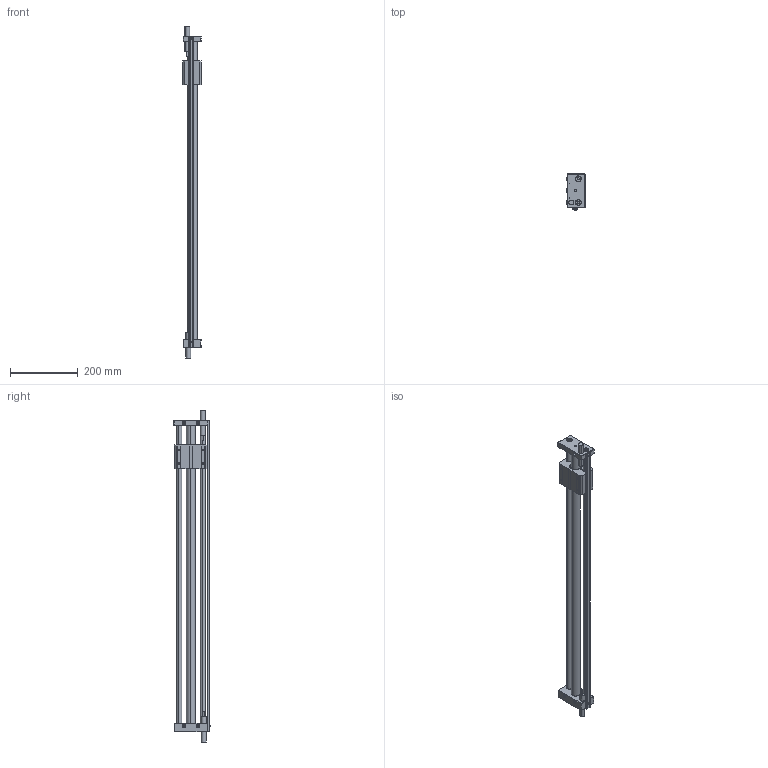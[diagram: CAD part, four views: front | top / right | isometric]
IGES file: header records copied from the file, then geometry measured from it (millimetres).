
Start section: SolidWorks IGES file using analytic representation for surfaces
Global section: file name: D:\Documents de SGA\Pieces 2D et 3D\GRU\iges\GRU 25.800.IGS; native system: SolidWorks 2010; preprocessor: SolidWorks 2010; author: SGA; date: 111216.112938; units: millimetre
Bounding box: 54 x 106.42 x 980.73 mm (x, y, z)
Surface area: 319287 mm2 (no closed solid volume)
Topology: 0 solids, 0 shells, 294 faces, 4396 edges, 4396 vertices
Faces by surface type: revolution 158, bspline 136
